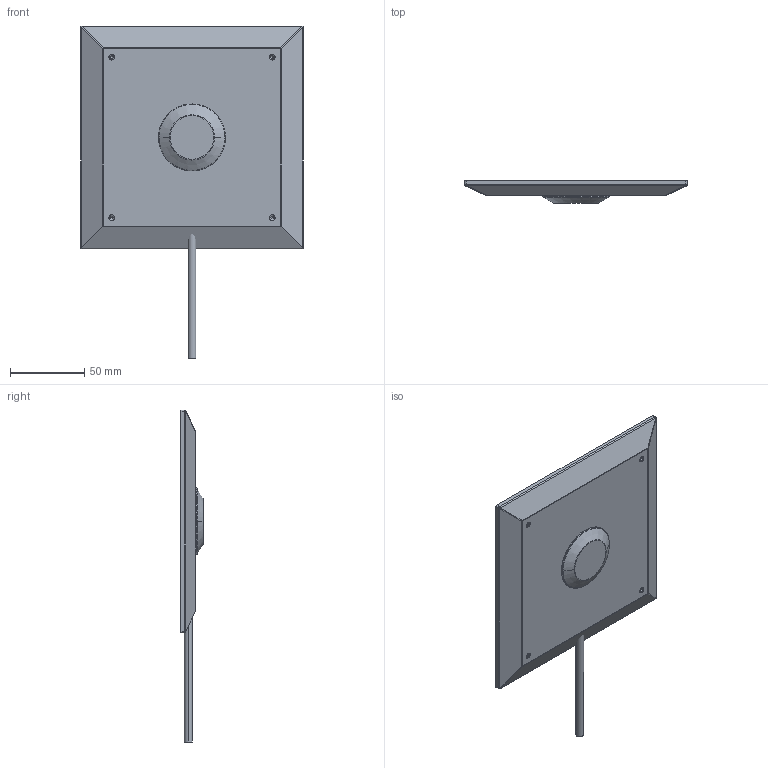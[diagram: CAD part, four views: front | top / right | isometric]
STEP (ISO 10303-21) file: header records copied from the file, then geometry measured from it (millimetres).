
FILE_DESCRIPTION (( 'STEP AP214' ), '1' );
FILE_NAME ('210970.STEP', '2023-11-30T12:50:37', ( '' ), ( '' ), 'SwSTEP 2.0', 'SolidWorks 2022', '' );
FILE_SCHEMA (( 'AUTOMOTIVE_DESIGN' ));
Length unit declared in the file: millimetre
Products named in the file (9): 00005977; 309625_00071; 366563; 310408_00008; 309625_00121; 00005976; 208815; 210970; 247532
Assembly tree (5 placements, depth 3):
  309625_00071
  310408_00008
  309625_00121
  210970
    208815
    247532
    366563
      00005976
    00005977
Bounding box: 150 x 15.1 x 223.5 mm (x, y, z)
Volume: 187735.1 mm3; surface area: 94108.5 mm2
Topology: 11 solids, 12 shells, 142 faces, 300 edges, 174 vertices
Faces by surface type: cylinder 52, plane 52, torus 18, cone 10, sphere 8, bspline 2
Entity records: 4658 total; most frequent: CARTESIAN_POINT 1143, DIRECTION 720, ORIENTED_EDGE 576, AXIS2_PLACEMENT_3D 289, EDGE_CURVE 288, VERTEX_POINT 174, EDGE_LOOP 146, ADVANCED_FACE 142
